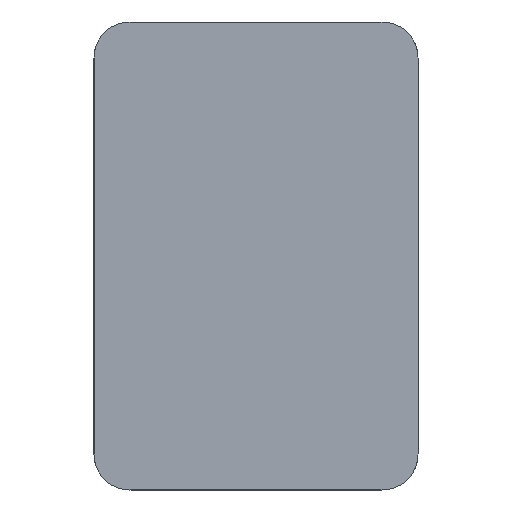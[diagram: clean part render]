
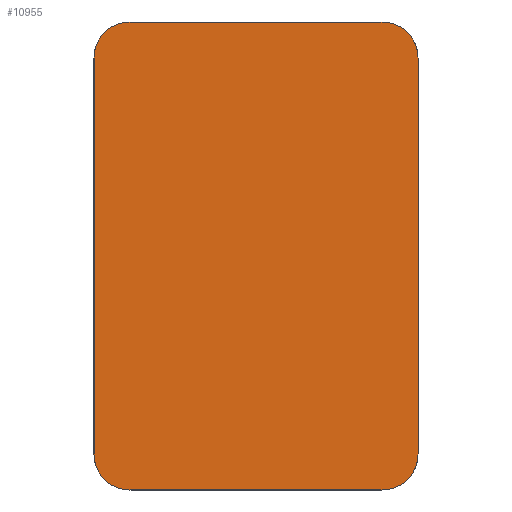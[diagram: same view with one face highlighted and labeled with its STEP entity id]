
A CAD part, left-side view. The second image highlights one B-rep face of the part: STEP entity #10955.
In plain terms, the highlighted planar face has unit normal (-1, 0, 0).
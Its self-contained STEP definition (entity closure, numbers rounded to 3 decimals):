
#1866=LINE('',#21529,#2692);
#1900=LINE('',#22353,#2726);
#1903=LINE('',#22361,#2729);
#1904=LINE('',#22365,#2730);
#2692=VECTOR('',#12621,10.);
#2726=VECTOR('',#12789,10.);
#2729=VECTOR('',#12796,10.);
#2730=VECTOR('',#12799,10.);
#3424=FACE_OUTER_BOUND('',#4078,.T.);
#4078=EDGE_LOOP('',(#10001,#10002,#10003,#10004,#10005,#10006,#10007,#10008));
#4187=CIRCLE('',#11324,5.);
#4189=CIRCLE('',#11328,5.);
#4190=CIRCLE('',#11329,5.);
#4191=CIRCLE('',#11330,5.);
#5187=VERTEX_POINT('',#21526);
#5188=VERTEX_POINT('',#21528);
#5254=VERTEX_POINT('',#22346);
#5256=VERTEX_POINT('',#22352);
#5258=VERTEX_POINT('',#22358);
#5259=VERTEX_POINT('',#22360);
#5260=VERTEX_POINT('',#22362);
#5261=VERTEX_POINT('',#22364);
#6749=EDGE_CURVE('',#5187,#5188,#1866,.T.);
#6849=EDGE_CURVE('',#5188,#5254,#4187,.T.);
#6852=EDGE_CURVE('',#5254,#5256,#1900,.T.);
#6855=EDGE_CURVE('',#5258,#5187,#4189,.T.);
#6856=EDGE_CURVE('',#5259,#5258,#1903,.T.);
#6857=EDGE_CURVE('',#5260,#5259,#4190,.T.);
#6858=EDGE_CURVE('',#5261,#5260,#1904,.T.);
#6859=EDGE_CURVE('',#5256,#5261,#4191,.T.);
#10001=ORIENTED_EDGE('',*,*,#6849,.F.);
#10002=ORIENTED_EDGE('',*,*,#6749,.F.);
#10003=ORIENTED_EDGE('',*,*,#6855,.F.);
#10004=ORIENTED_EDGE('',*,*,#6856,.F.);
#10005=ORIENTED_EDGE('',*,*,#6857,.F.);
#10006=ORIENTED_EDGE('',*,*,#6858,.F.);
#10007=ORIENTED_EDGE('',*,*,#6859,.F.);
#10008=ORIENTED_EDGE('',*,*,#6852,.F.);
#10375=PLANE('',#11327);
#10955=ADVANCED_FACE('',(#3424),#10375,.F.);
#11324=AXIS2_PLACEMENT_3D('',#22347,#12782,#12783);
#11327=AXIS2_PLACEMENT_3D('',#22357,#12792,#12793);
#11328=AXIS2_PLACEMENT_3D('',#22359,#12794,#12795);
#11329=AXIS2_PLACEMENT_3D('',#22363,#12797,#12798);
#11330=AXIS2_PLACEMENT_3D('',#22366,#12800,#12801);
#12621=DIRECTION('',(0.,0.,-1.));
#12782=DIRECTION('center_axis',(1.,0.,0.));
#12783=DIRECTION('ref_axis',(0.,-0.707,-0.707));
#12789=DIRECTION('',(0.,1.,0.));
#12792=DIRECTION('center_axis',(1.,0.,0.));
#12793=DIRECTION('ref_axis',(0.,1.,0.));
#12794=DIRECTION('center_axis',(1.,0.,0.));
#12795=DIRECTION('ref_axis',(0.,-0.707,0.707));
#12796=DIRECTION('',(0.,-1.,0.));
#12797=DIRECTION('center_axis',(1.,0.,0.));
#12798=DIRECTION('ref_axis',(0.,0.707,0.707));
#12799=DIRECTION('',(0.,0.,1.));
#12800=DIRECTION('center_axis',(1.,0.,0.));
#12801=DIRECTION('ref_axis',(0.,0.707,-0.707));
#21526=CARTESIAN_POINT('',(0.,0.,60.));
#21528=CARTESIAN_POINT('',(0.,0.,5.));
#21529=CARTESIAN_POINT('',(0.,0.,65.));
#22346=CARTESIAN_POINT('',(0.,5.,0.));
#22347=CARTESIAN_POINT('Origin',(0.,5.,5.));
#22352=CARTESIAN_POINT('',(0.,40.,0.));
#22353=CARTESIAN_POINT('',(0.,0.,0.));
#22357=CARTESIAN_POINT('Origin',(0.,22.5,32.5));
#22358=CARTESIAN_POINT('',(0.,5.,65.));
#22359=CARTESIAN_POINT('Origin',(0.,5.,60.));
#22360=CARTESIAN_POINT('',(0.,40.,65.));
#22361=CARTESIAN_POINT('',(0.,45.,65.));
#22362=CARTESIAN_POINT('',(0.,45.,60.));
#22363=CARTESIAN_POINT('Origin',(0.,40.,60.));
#22364=CARTESIAN_POINT('',(0.,45.,5.));
#22365=CARTESIAN_POINT('',(0.,45.,0.));
#22366=CARTESIAN_POINT('Origin',(0.,40.,5.));
